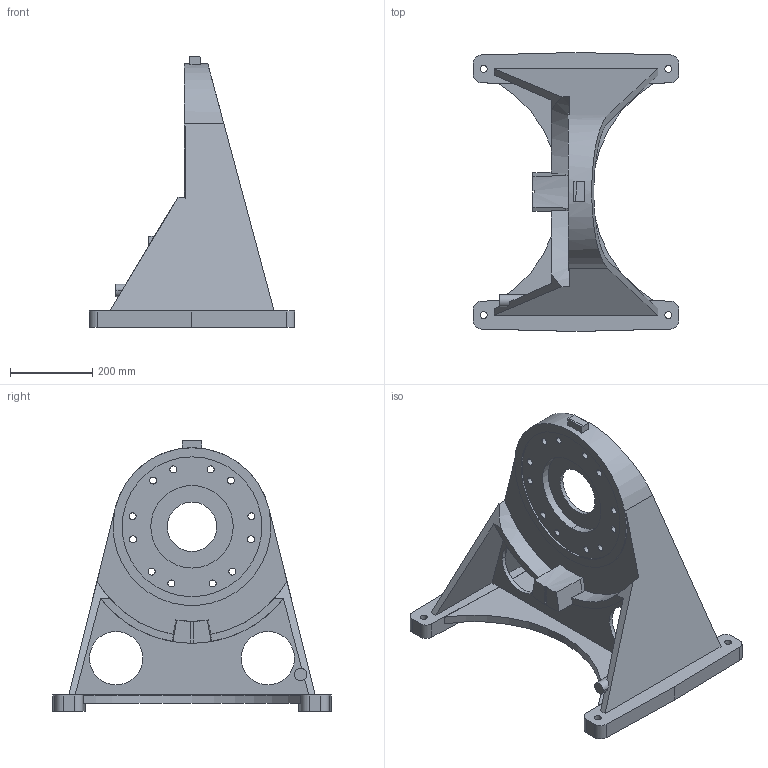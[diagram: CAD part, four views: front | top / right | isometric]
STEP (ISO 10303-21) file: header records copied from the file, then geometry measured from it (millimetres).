
FILE_DESCRIPTION (( 'STEP AP214' ), '1' );
FILE_NAME ('IRB5500_12_T00F71B41V31H51_rev1_1.step', '2006-09-01T12:40:30', ( 'Jonas Eriksson' ), ( '' ), 'SwSTEP 2.0', 'SolidWorks 2004334', '' );
FILE_SCHEMA (( 'AUTOMOTIVE_DESIGN' ));
Length unit declared in the file: millimetre
Products named in the file (1): IRB5500_12_T00F71B41V31H51_rev1_1
Bounding box: 500 x 680 x 660 mm (x, y, z)
Volume: 13326630.8 mm3; surface area: 1438161.5 mm2
Topology: 1 solids, 1 shells, 123 faces, 354 edges, 234 vertices
Faces by surface type: cylinder 62, plane 60, bspline 1
Entity records: 6030 total; most frequent: CARTESIAN_POINT 1253, DIRECTION 718, ORIENTED_EDGE 708, EDGE_CURVE 354, AXIS2_PLACEMENT_3D 254, VERTEX_POINT 234, VECTOR 210, LINE 210
